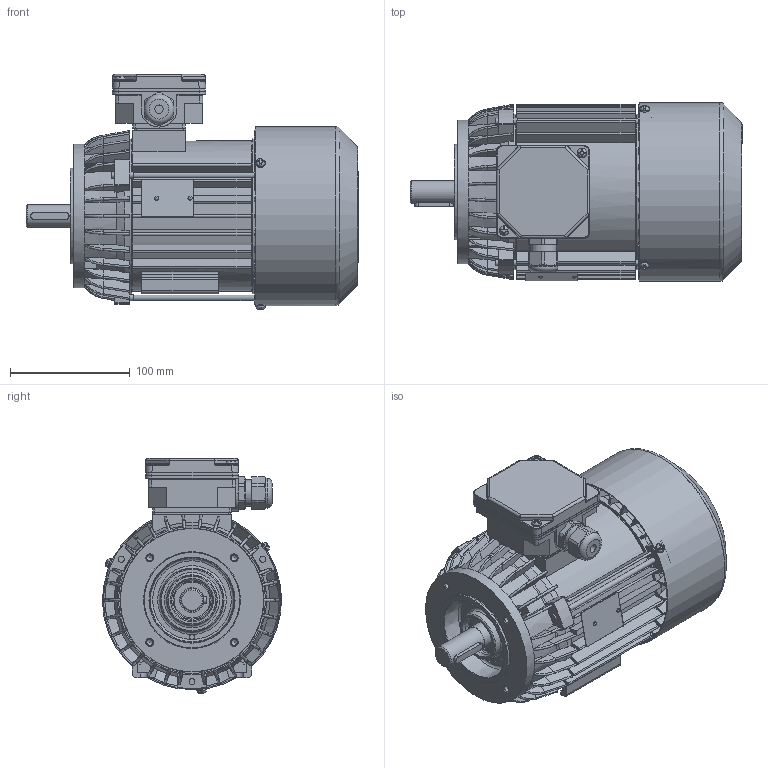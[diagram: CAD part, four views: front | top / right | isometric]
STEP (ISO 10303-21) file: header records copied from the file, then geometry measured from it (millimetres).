
FILE_DESCRIPTION( ( 'Unknown' ), '1' );
FILE_NAME( 'G:/Poczta Tk-1/STP/w.m.80/Sh80/SKh80-.B2.stp', 'Unknown', ( 'K. Szlosek' ), ( 'BESEL S.A.' ), 'PSStep 17.0.49', 'Unknown', ' ' );
FILE_SCHEMA( ( 'AUTOMOTIVE_DESIGN { 1 0 10303 214 1 1 1 1 }' ) );
Length unit declared in the file: millimetre
Products named in the file (29): skrznka zaciskowa trójfazowa ; K4-2820 Uszczelka nr 2 Sh71,80; Dławnica M20x1,5; K2-0859 Podstawa skrzynki 6-cio zaciskowej; K2-0860 Pokrywka skrzynki zaciskowej; Assem1; K1-1257 Kadłub S(E,M)h80-A i B; K3-2964 Osłona przewietrznika Sh80,90; K4-2320 Uszczelka nr 1 Sh71,80; K3-4616 wał standard Sh80-B; K3-6857 Tarcza łożyskowa P S(E,M)h80-B,D; Wkręt samogwintujący M4x8; Wpust A6x6x32; Wkręt samogwintujący M4x16; Nitokołek A 2x6; K3-4025 Przewietrznik Sg,h80; Tabliczka znamionowa 32x44; Łożysko 6204; Śruba ściągająca E_M5x130; K1-1261 Tarcza kołnierzowa B14_2 w.m. 80
Assembly tree (44 placements, depth 3):
  Assem1
    K1-1257 Kadłub S(E,M)h80-A i B
    K3-2964 Osłona przewietrznika Sh80,90
    K4-2320 Uszczelka nr 1 Sh71,80
    K3-4616 wał standard Sh80-B
    K3-6857 Tarcza łożyskowa P S(E,M)h80-B,D
    Wkręt samogwintujący M4x8  x3
    Wpust A6x6x32
    Wkręt samogwintujący M4x16  x2
    Nitokołek A 2x6  x2
    K3-4025 Przewietrznik Sg,h80
    Tabliczka znamionowa 32x44
    Łożysko 6204  x2
    Łożysko 6204  x2
    Łożysko 6204  x2
    Łożysko 6204  x2
    Łożysko 6204  x2
    Łożysko 6204  x2
    Łożysko 6204  x2
    Łożysko 6204  x2
    Łożysko 6204  x2
    Łożysko 6204  x2
    Śruba ściągająca E_M5x130  x3
    K1-1261 Tarcza kołnierzowa B14_2 w.m. 80
    skrznka zaciskowa trójfazowa 
      K4-2820 Uszczelka nr 2 Sh71,80
      Dławnica M20x1,5
      K2-0859 Podstawa skrzynki 6-cio zaciskowej
      K2-0860 Pokrywka skrzynki zaciskowej
Bounding box: 277.8 x 149.88 x 196.68 mm (x, y, z)
Volume: 784811.2 mm3; surface area: 534999.4 mm2
Topology: 43 solids, 59 shells, 2678 faces, 7540 edges, 4864 vertices
Faces by surface type: plane 1267, cylinder 783, bspline 249, torus 187, cone 156, sphere 36
Full cylindrical faces by diameter (mm): 2 x2, 2.4 x2, 3.7 x11, 4 x7, 4.2 x3, 4.5 x1, 4.6 x3, 4.8 x4, 5 x11, 5.5 x3, 7 x1, 8 x9, 18.376 x1, 18.38 x1, 19 x1, 19.3 x1, 19.5 x1, 19.9 x1, 20 x3, 20.3 x2, 20.4 x4, 22.3 x1, 25 x1, 25.5 x1, 26 x2, 26.1 x1, 27 x1, 28.802 x4, 30 x1, 34 x1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
Entity records: 136725 total; most frequent: CARTESIAN_POINT 53511, ORIENTED_EDGE 13476, DIRECTION 12344, EDGE_CURVE 6738, AXIS2_PLACEMENT_3D 4531, VERTEX_POINT 4503, LINE 3282, VECTOR 3282
